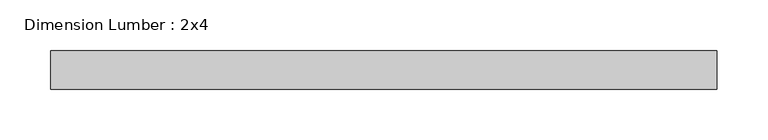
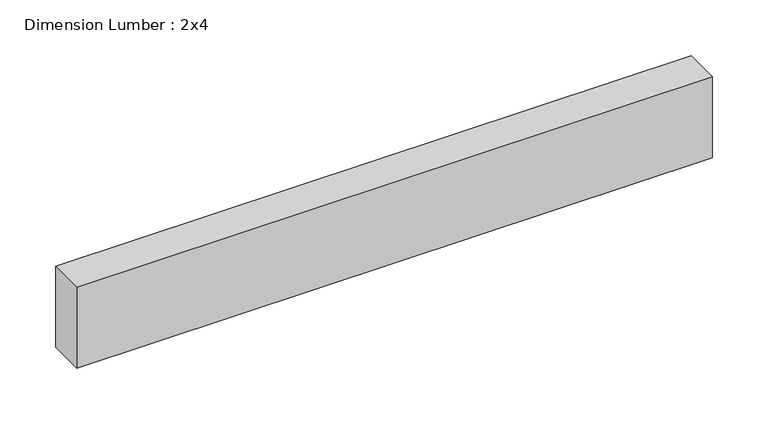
"""IFC4 building model written with IfcOpenShell, lengths in millimetres: beam geometry, Dimension Lumber : 2x4."""

import ifcopenshell
import ifcopenshell.guid

model = None  # the IFC model being written
_history = None  # IfcOwnerHistory: only IFC2X3 demands one
_inside = {}  # id of a spatial element -> (the spatial element, [elements in it])
_under = {}  # id of a project, library or spatial element -> (it, [spatial elements below it])
_declared = {}  # id of a project -> (the project, [libraries it declares])
_typed = {}  # id of a type object -> (the type object, [elements of that type])
_made_of = {}  # id of a material, layer set ... -> (it, [elements and type objects made of it])


def new_model(schema):
    """Start an empty IFC model of exactly this schema.

    Asked for "IFC4X3", IfcOpenShell would pick the latest addendum, in which some entities
    have other attributes; the version numbers below select the first issue.
    IFC2X3 requires an IfcOwnerHistory on every rooted entity: one is made here for all.
    """
    global model, _history
    if schema == "IFC4X3":
        model = ifcopenshell.file(schema_version=(4, 3, 0, 0))
    else:
        model = ifcopenshell.file(schema=schema)
    _inside.clear()
    _under.clear()
    _declared.clear()
    _typed.clear()
    _made_of.clear()
    _history = None
    if model.schema == "IFC2X3":
        org = make("IfcOrganization", Name="unknown")
        user = make(
            "IfcPersonAndOrganization",
            ThePerson=make("IfcPerson", FamilyName="unknown"),
            TheOrganization=org,
        )
        app = make(
            "IfcApplication",
            ApplicationDeveloper=org,
            Version="unknown",
            ApplicationFullName="unknown",
            ApplicationIdentifier="unknown",
        )
        _history = make(
            "IfcOwnerHistory",
            OwningUser=user,
            OwningApplication=app,
            ChangeAction="ADDED",
            CreationDate=0,
        )
    return model


def make(cls, **values):
    """One entity of the class cls with the attributes given. An attribute that is None is left unset."""
    return model.create_entity(
        cls, **{name: value for name, value in values.items() if value is not None}
    )


def rooted(cls, **values):
    """An entity with a GlobalId (a new one), such as an element, a storey or a relation."""
    return make(cls, GlobalId=ifcopenshell.guid.new(), OwnerHistory=_history, **values)


def si_unit(unit_type, name, prefix=None):
    """IfcSIUnit, for example si_unit("LENGTHUNIT", "METRE", prefix="MILLI")."""
    return make("IfcSIUnit", UnitType=unit_type, Prefix=prefix, Name=name)


def assignment(units):
    """IfcUnitAssignment: the units of a project."""
    return None if units is None else make("IfcUnitAssignment", Units=units)


def point(xyz):
    """IfcCartesianPoint."""
    return None if xyz is None else make("IfcCartesianPoint", Coordinates=xyz)


def direction(xyz):
    """IfcDirection."""
    return None if xyz is None else make("IfcDirection", DirectionRatios=xyz)


def frame(location, z_axis=None, x_axis=None):
    """IfcAxis2Placement3D, a coordinate frame: its origin and axes. An axis left out is left unset."""
    return make(
        "IfcAxis2Placement3D",
        Location=point(location),
        Axis=direction(z_axis),
        RefDirection=direction(x_axis),
    )


def origin():
    """The frame at (0, 0, 0) with its axes left unset."""
    return frame((0.0, 0.0, 0.0))


def place(relative_to, where):
    """IfcLocalPlacement: puts the frame where relative to a parent placement (None: the world)."""
    return make(
        "IfcLocalPlacement", PlacementRelTo=relative_to, RelativePlacement=where
    )


def context(
    kind, dimensions, precision=None, world=None, true_north=None, identifier=None
):
    """IfcGeometricRepresentationContext, for example the 3D "Model" context."""
    return make(
        "IfcGeometricRepresentationContext",
        ContextIdentifier=identifier,
        ContextType=kind,
        CoordinateSpaceDimension=dimensions,
        Precision=precision,
        WorldCoordinateSystem=world,
        TrueNorth=true_north,
    )


def project(units=None, contexts=None):
    """IfcProject with its units and contexts."""
    return rooted(
        "IfcProject",
        Name="project",
        RepresentationContexts=contexts,
        UnitsInContext=assignment(units),
    )


def spatial(cls, under=None, at=None, **own):
    """A site, building, storey or space (cls), placed at a placement, below another one or the project."""
    s = rooted(cls, ObjectPlacement=at, **own)
    if under is not None:
        _under.setdefault(under.id(), (under, []))[1].append(s)
    return s


def polyline(points):
    """IfcPolyline through the points."""
    return make("IfcPolyline", Points=[point(p) for p in points])


def outline(outer, holes=None, kind="AREA"):
    """IfcArbitraryClosedProfileDef: a profile drawn as a closed curve; with holes, ...WithVoids."""
    if holes is None:
        return make("IfcArbitraryClosedProfileDef", ProfileType=kind, OuterCurve=outer)
    return make(
        "IfcArbitraryProfileDefWithVoids",
        ProfileType=kind,
        OuterCurve=outer,
        InnerCurves=holes,
    )


def extrude(swept, where, along, depth):
    """IfcExtrudedAreaSolid: the profile swept, set in the frame where, extruded along a direction by depth."""
    return make(
        "IfcExtrudedAreaSolid",
        SweptArea=swept,
        Position=where,
        ExtrudedDirection=direction(along),
        Depth=depth,
    )


def shape(context_of_items, identifier, shape_type, items):
    """IfcShapeRepresentation: the items that make up one representation, for example the "Body"."""
    return make(
        "IfcShapeRepresentation",
        ContextOfItems=context_of_items,
        RepresentationIdentifier=identifier,
        RepresentationType=shape_type,
        Items=items,
    )


def source(mapping_origin, context_of_items, identifier, shape_type, items):
    """IfcRepresentationMap: a shape defined once, which mapped items show again and again."""
    return make(
        "IfcRepresentationMap",
        MappingOrigin=mapping_origin,
        MappedRepresentation=shape(context_of_items, identifier, shape_type, items),
    )


def transform(
    local_origin,
    x_axis=None,
    y_axis=None,
    z_axis=None,
    scale=None,
    scale2=None,
    scale3=None,
    uniform=True,
):
    """IfcCartesianTransformationOperator3D, or its non-uniform kind. x_axis, y_axis, z_axis: its Axis1, 2, 3."""
    if uniform:
        return make(
            "IfcCartesianTransformationOperator3D",
            Axis1=direction(x_axis),
            Axis2=direction(y_axis),
            LocalOrigin=point(local_origin),
            Scale=scale,
            Axis3=direction(z_axis),
        )
    return make(
        "IfcCartesianTransformationOperator3DnonUniform",
        Axis1=direction(x_axis),
        Axis2=direction(y_axis),
        LocalOrigin=point(local_origin),
        Scale=scale,
        Axis3=direction(z_axis),
        Scale2=scale2,
        Scale3=scale3,
    )


def mapped(mapping_source, mapping_target):
    """IfcMappedItem: shows the shape of a source again, moved by a transform."""
    return make(
        "IfcMappedItem", MappingSource=mapping_source, MappingTarget=mapping_target
    )


def made_of(thing, what):
    """Note that an element or type object is made of a material, layer set ...; save() writes the relation."""
    if what is not None:
        _made_of.setdefault(what.id(), (what, []))[1].append(thing)
    return thing


def element(
    cls,
    number,
    at=None,
    inside=None,
    cuts=None,
    type_object=None,
    material=None,
    context=None,
    identifier="Body",
    shape_type=None,
    held_by="IfcProductDefinitionShape",
    body=None,
    shapes=None,
    **own,
):
    """One element of the class cls, such as IfcWall. Its Tag is "e" and its number.

    at: its placement. inside: the storey or other place that contains it. cuts: it is an
    opening in that element (IfcRelVoidsElement). A single representation is given by context,
    identifier, shape_type and body (its items); several are given by shapes. held_by: the class
    of the entity that holds the representations. save() writes the other relations.
    """
    e = rooted(cls, Tag="e%d" % number, ObjectPlacement=at, **own)
    if body is not None:
        shapes = [shape(context, identifier, shape_type, body)]
    if shapes is not None:
        e.Representation = make(held_by, Representations=shapes)
    if inside is not None:
        _inside.setdefault(inside.id(), (inside, []))[1].append(e)
    if cuts is not None:
        rooted(
            "IfcRelVoidsElement", RelatingBuildingElement=cuts, RelatedOpeningElement=e
        )
    if type_object is not None:
        _typed.setdefault(type_object.id(), (type_object, []))[1].append(e)
    return made_of(e, material)


def aggregate(whole, parts):
    """IfcRelAggregates: a whole, such as a stair, and the parts it consists of."""
    return rooted("IfcRelAggregates", RelatingObject=whole, RelatedObjects=parts)


def save(model, path):
    """Write the relations noted so far, then the file.

    IfcRelAggregates (storeys below a building ...), IfcRelContainedInSpatialStructure (elements
    in a storey), IfcRelDefinesByType, IfcRelAssociatesMaterial and IfcRelDeclares: one each for
    every whole, place, type object, material and project.
    """
    for whole, parts in _under.values():
        aggregate(whole, parts)
    for where, things in _inside.values():
        rooted(
            "IfcRelContainedInSpatialStructure",
            RelatedElements=things,
            RelatingStructure=where,
        )
    for kind, things in _typed.values():
        rooted("IfcRelDefinesByType", RelatedObjects=things, RelatingType=kind)
    for what, things in _made_of.values():
        rooted("IfcRelAssociatesMaterial", RelatedObjects=things, RelatingMaterial=what)
    for by, libraries in _declared.values():
        rooted("IfcRelDeclares", RelatingContext=by, RelatedDefinitions=libraries)
    model.write(path)


def dimension_lumber_2x4_3c901867(model_context):
    return source(origin(), model_context, "Body", "SweptSolid", [
        extrude(outline(polyline([(329.803125, 19.05), (329.803125, -19.05), (-329.803125, -19.05), (-329.803125, 19.05), (329.803125, 19.05)])), frame((0.0, 0.0, -44.45), z_axis=(0.0, 0.0, 1.0), x_axis=(1.0, 0.0, 0.0)), (0.0, 0.0, 1.0), 88.9),
    ])


if __name__ == "__main__":
    model = new_model("IFC4")
    model_context = context("Model", 3, world=origin())
    ifc_project = project(units=[si_unit("LENGTHUNIT", "METRE", prefix="MILLI")], contexts=[model_context])
    site = spatial("IfcSite", under=ifc_project)
    building = spatial("IfcBuilding", under=site)
    placement = place(None, origin())
    dimension_lumber_2x4_shape = dimension_lumber_2x4_3c901867(model_context)
    element("IfcBeam", 1, ObjectType="Dimension Lumber : 2x4", at=placement, inside=building, context=model_context, shape_type="MappedRepresentation", body=[
        mapped(dimension_lumber_2x4_shape, transform((0.0, 0.0, 0.0), x_axis=(1.0, 0.0, 0.0), y_axis=(0.0, 1.0, 0.0), z_axis=(0.0, 0.0, 1.0))),
    ])
    save(model, "model.ifc")
